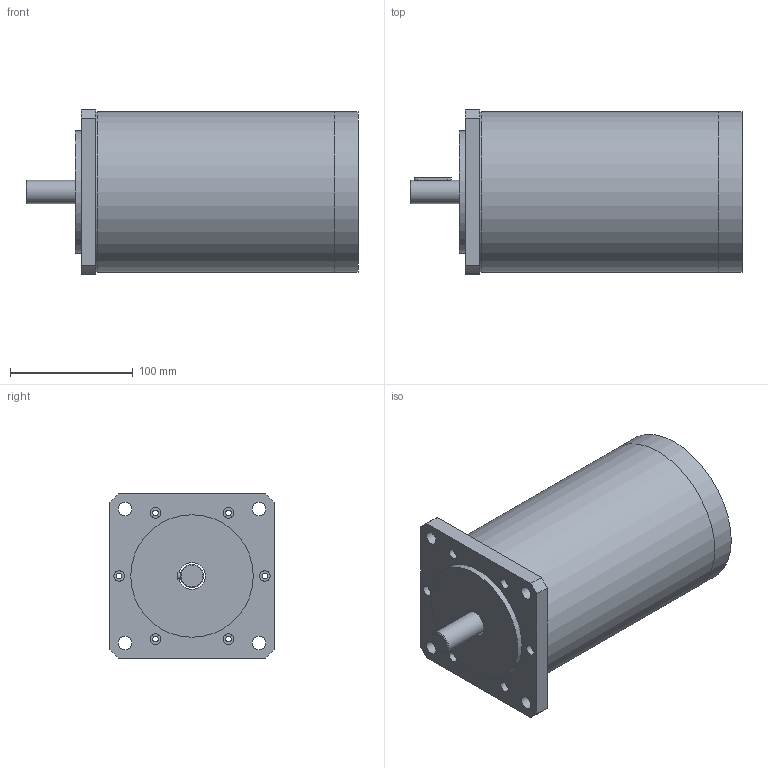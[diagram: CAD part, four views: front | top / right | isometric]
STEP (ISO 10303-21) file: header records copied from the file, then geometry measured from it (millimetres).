
FILE_DESCRIPTION (( 'STEP AP203' ), '1' );
FILE_NAME ('YK130HB225-06A.STEP', '2018-11-14T11:21:41', ( '' ), ( '' ), 'SwSTEP 2.0', 'SolidWorks 2014', '' );
FILE_SCHEMA (( 'CONFIG_CONTROL_DESIGN' ));
Length unit declared in the file: millimetre
Products named in the file (9): YK130HBXX綴裔; YK130HB225-06A; YK130HBXXヶ裔; YK130HBXX粣郋; YK130HBXX隅赽
Assembly tree (4 placements, depth 2):
  YK130HB225-06A
    YK130HBXXヶ裔
    YK130HBXX隅赽
    YK130HBXX綴裔
    YK130HBXX粣郋
  YK130HBXX綴裔
  YK130HBXX隅赽
  YK130HBXX粣郋
  YK130HBXXヶ裔
Bounding box: 271 x 134 x 134 mm (x, y, z)
Volume: 2277042.1 mm3; surface area: 252182.5 mm2
Topology: 4 solids, 4 shells, 90 faces, 190 edges, 129 vertices
Faces by surface type: cylinder 54, plane 35, cone 1
Full cylindrical faces by diameter (mm): 4.6 x18, 8.6 x12, 11 x4, 19 x1, 22 x1, 26.5 x1, 42 x1, 52 x1, 65 x1, 69 x1, 100 x1, 106 x1, 112 x1, 126 x1, 131 x3
Entity records: 3137 total; most frequent: DIRECTION 434, CARTESIAN_POINT 410, ORIENTED_EDGE 266, EDGE_LOOP 210, AXIS2_PLACEMENT_3D 205, FACE_OUTER_BOUND 138, EDGE_CURVE 133, VERTEX_POINT 121
